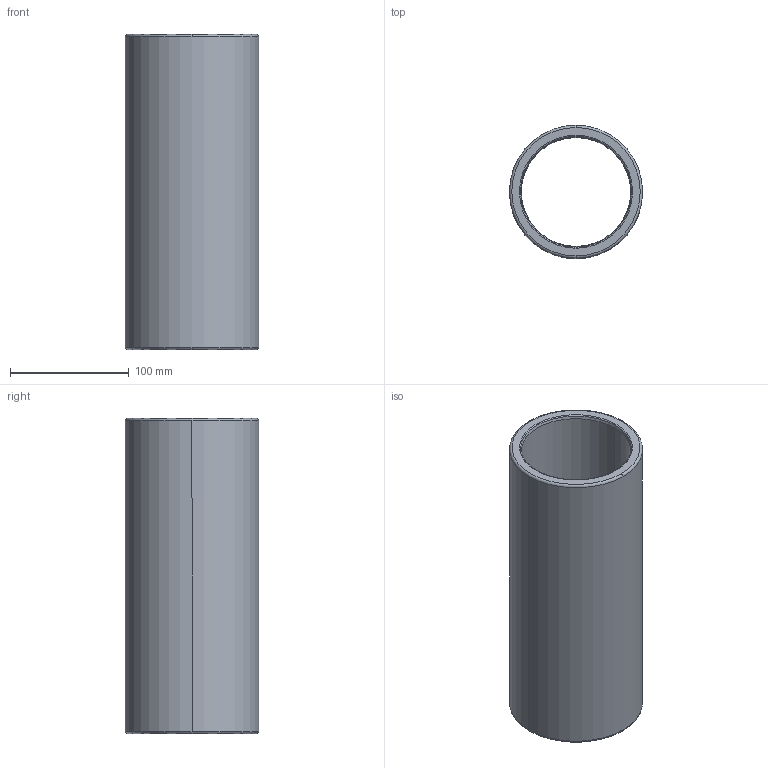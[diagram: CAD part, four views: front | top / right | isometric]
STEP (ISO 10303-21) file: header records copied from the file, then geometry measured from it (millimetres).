
FILE_DESCRIPTION((''),'2;1');
FILE_NAME('B30_080_265.stp','2009-01-12T10:33:14',(''),(''),'Mechanical Desktop 2009','Mechanical Desktop 2009',', , ');
FILE_SCHEMA(('CONFIG_CONTROL_DESIGN'));
Length unit declared in the file: millimetre
Products named in the file (2): Product; blmdl1
Assembly tree (1 placements, depth 2):
  Product
    blmdl1
Bounding box: 111.98 x 111.98 x 265 mm (x, y, z)
Volume: 848487.2 mm3; surface area: 175071.7 mm2
Topology: 1 solids, 1 shells, 18 faces, 48 edges, 32 vertices
Faces by surface type: torus 8, cylinder 4, cone 4, plane 2
Entity records: 705 total; most frequent: DIRECTION 128, CARTESIAN_POINT 100, ORIENTED_EDGE 96, AXIS2_PLACEMENT_3D 60, EDGE_CURVE 48, CIRCLE 40, VERTEX_POINT 32, EDGE_LOOP 20
